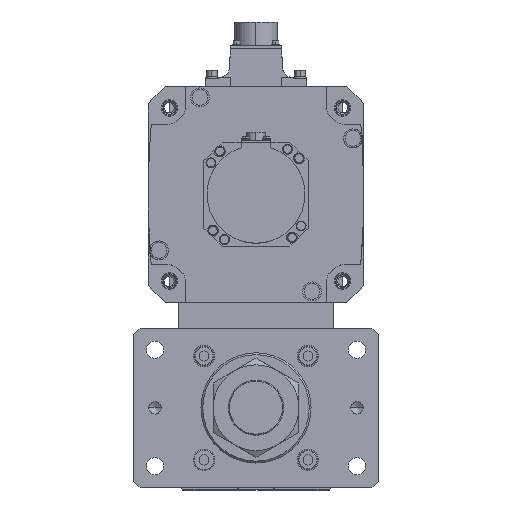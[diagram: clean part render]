
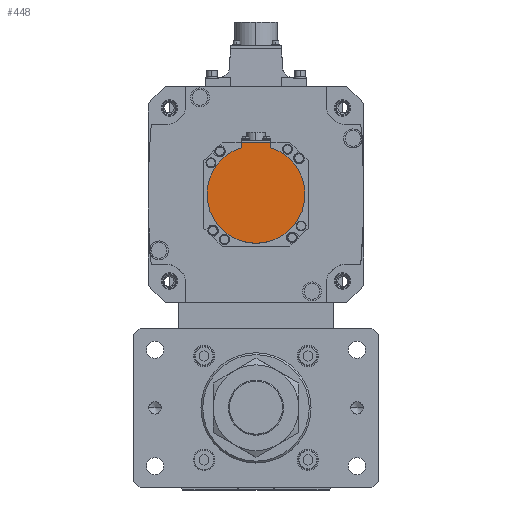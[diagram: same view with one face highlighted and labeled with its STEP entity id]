
A CAD part, top view. The second image highlights one B-rep face of the part: STEP entity #448.
In plain terms, the highlighted planar face has unit normal (0, 0, 1) as drawn and (0, 0, -1) by its records, which use the part's own axes.
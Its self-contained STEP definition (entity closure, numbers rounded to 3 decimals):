
#448 = ADVANCED_FACE ( 'NONE', ( #51894 ), #39501, .F. ) ;
#1677 = DIRECTION ( 'NONE',  ( 0., 0., 1. ) ) ;
#1930 = ORIENTED_EDGE ( 'NONE', *, *, #9919, .F. ) ;
#2643 = VERTEX_POINT ( 'NONE', #43616 ) ;
#3061 = AXIS2_PLACEMENT_3D ( 'NONE', #26096, #1677, #29787 ) ;
#3519 = CIRCLE ( 'NONE', #22287, 40. ) ;
#5309 = EDGE_CURVE ( 'NONE', #39522, #10957, #17565, .T. ) ;
#6612 = VERTEX_POINT ( 'NONE', #37160 ) ;
#6803 = ORIENTED_EDGE ( 'NONE', *, *, #26136, .T. ) ;
#7436 = VECTOR ( 'NONE', #47239, 1000. ) ;
#7548 = CARTESIAN_POINT ( 'NONE',  ( 40., 0., -138.5 ) ) ;
#8027 = VERTEX_POINT ( 'NONE', #20076 ) ;
#9919 = EDGE_CURVE ( 'NONE', #10790, #39522, #43900, .T. ) ;
#9992 = EDGE_CURVE ( 'NONE', #8027, #6612, #48917, .T. ) ;
#10790 = VERTEX_POINT ( 'NONE', #14229 ) ;
#10957 = VERTEX_POINT ( 'NONE', #7548 ) ;
#11384 = CARTESIAN_POINT ( 'NONE',  ( 12., -1.249, -138.5 ) ) ;
#12049 = DIRECTION ( 'NONE',  ( 0., 0., 1. ) ) ;
#13678 = AXIS2_PLACEMENT_3D ( 'NONE', #40365, #12049, #44401 ) ;
#14229 = CARTESIAN_POINT ( 'NONE',  ( 12., -42.5, -138.5 ) ) ;
#16879 = EDGE_CURVE ( 'NONE', #10957, #8027, #3519, .T. ) ;
#17565 = CIRCLE ( 'NONE', #3061, 40. ) ;
#18038 = DIRECTION ( 'NONE',  ( 0., 0., 1. ) ) ;
#19601 = EDGE_LOOP ( 'NONE', ( #31882, #30889, #26064, #37738, #1930, #6803 ) ) ;
#20076 = CARTESIAN_POINT ( 'NONE',  ( -40., 0., -138.5 ) ) ;
#21556 = CARTESIAN_POINT ( 'NONE',  ( 0., 0., -138.5 ) ) ;
#22089 = DIRECTION ( 'NONE',  ( 1., 0., 0. ) ) ;
#22287 = AXIS2_PLACEMENT_3D ( 'NONE', #21556, #18038, #22089 ) ;
#25581 = DIRECTION ( 'NONE',  ( 0., 1., 0. ) ) ;
#26064 = ORIENTED_EDGE ( 'NONE', *, *, #16879, .F. ) ;
#26096 = CARTESIAN_POINT ( 'NONE',  ( 0., 0., -138.5 ) ) ;
#26136 = EDGE_CURVE ( 'NONE', #10790, #2643, #50614, .T. ) ;
#26667 = DIRECTION ( 'NONE',  ( 0., 0., 1. ) ) ;
#29787 = DIRECTION ( 'NONE',  ( 1., 0., 0. ) ) ;
#30889 = ORIENTED_EDGE ( 'NONE', *, *, #9992, .F. ) ;
#31118 = AXIS2_PLACEMENT_3D ( 'NONE', #38801, #26667, #43219 ) ;
#31882 = ORIENTED_EDGE ( 'NONE', *, *, #41553, .T. ) ;
#32429 = LINE ( 'NONE', #41802, #38117 ) ;
#37160 = CARTESIAN_POINT ( 'NONE',  ( -12., -38.158, -138.5 ) ) ;
#37738 = ORIENTED_EDGE ( 'NONE', *, *, #5309, .F. ) ;
#38117 = VECTOR ( 'NONE', #25581, 1000. ) ;
#38683 = CARTESIAN_POINT ( 'NONE',  ( 12., -38.158, -138.5 ) ) ;
#38801 = CARTESIAN_POINT ( 'NONE',  ( 0., -1.249, -138.5 ) ) ;
#39501 = PLANE ( 'NONE',  #31118 ) ;
#39522 = VERTEX_POINT ( 'NONE', #38683 ) ;
#40365 = CARTESIAN_POINT ( 'NONE',  ( 0., 0., -138.5 ) ) ;
#41553 = EDGE_CURVE ( 'NONE', #2643, #6612, #32429, .T. ) ;
#41802 = CARTESIAN_POINT ( 'NONE',  ( -12., -40.329, -138.5 ) ) ;
#43219 = DIRECTION ( 'NONE',  ( 1., 0., 0. ) ) ;
#43616 = CARTESIAN_POINT ( 'NONE',  ( -12., -42.5, -138.5 ) ) ;
#43900 = LINE ( 'NONE', #11384, #7436 ) ;
#44401 = DIRECTION ( 'NONE',  ( 1., 0., 0. ) ) ;
#44979 = VECTOR ( 'NONE', #51642, 1000. ) ;
#46926 = CARTESIAN_POINT ( 'NONE',  ( 0., -42.5, -138.5 ) ) ;
#47239 = DIRECTION ( 'NONE',  ( 0., 1., 0. ) ) ;
#48917 = CIRCLE ( 'NONE', #13678, 40. ) ;
#50614 = LINE ( 'NONE', #46926, #44979 ) ;
#51642 = DIRECTION ( 'NONE',  ( -1., 0., 0. ) ) ;
#51894 = FACE_OUTER_BOUND ( 'NONE', #19601, .T. ) ;
